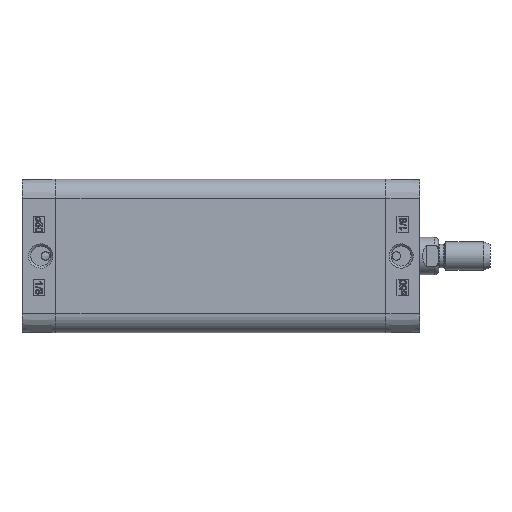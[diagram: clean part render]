
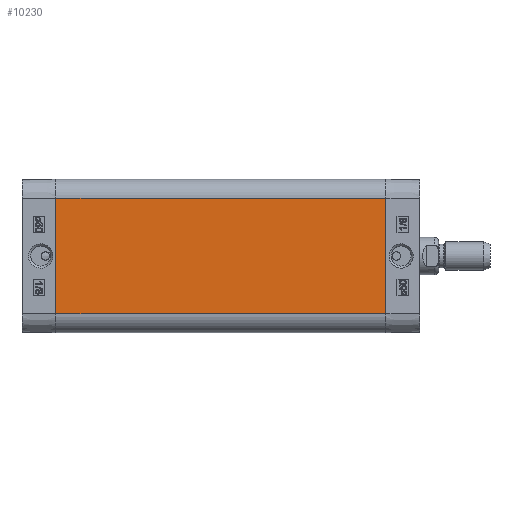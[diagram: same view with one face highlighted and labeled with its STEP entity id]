
A CAD part, left-side view. The second image highlights one B-rep face of the part: STEP entity #10230.
In plain terms, the highlighted planar face has unit normal (-1, 0, 0).
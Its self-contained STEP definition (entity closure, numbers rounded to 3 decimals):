
#5232=CARTESIAN_POINT('',(-32.75,-141.0,24.75));
#5233=VERTEX_POINT('',#5232);
#5240=CARTESIAN_POINT('',(-32.75,-141.0,-24.75));
#5241=VERTEX_POINT('',#5240);
#5242=CARTESIAN_POINT('',(-32.75,-141.0,-24.75));
#5243=DIRECTION('',(0.0,0.0,1.0));
#5244=VECTOR('',#5243,49.5);
#5245=LINE('',#5242,#5244);
#5246=EDGE_CURVE('',#5241,#5233,#5245,.T.);
#10188=CARTESIAN_POINT('',(-32.75,0.0,-24.75));
#10189=VERTEX_POINT('',#10188);
#10190=CARTESIAN_POINT('',(-32.75,0.0,-24.75));
#10191=DIRECTION('',(0.0,-1.0,0.0));
#10192=VECTOR('',#10191,141.0);
#10193=LINE('',#10190,#10192);
#10194=EDGE_CURVE('',#10189,#5241,#10193,.T.);
#10207=CARTESIAN_POINT('',(-32.75,0.0,-24.75));
#10208=DIRECTION('',(-1.0,0.0,0.0));
#10209=DIRECTION('',(0.0,0.0,1.0));
#10210=AXIS2_PLACEMENT_3D('',#10207,#10208,#10209);
#10211=PLANE('',#10210);
#10212=ORIENTED_EDGE('',*,*,#5246,.T.);
#10213=CARTESIAN_POINT('',(-32.75,0.0,24.75));
#10214=VERTEX_POINT('',#10213);
#10215=CARTESIAN_POINT('',(-32.75,0.0,24.75));
#10216=DIRECTION('',(0.0,-1.0,0.0));
#10217=VECTOR('',#10216,141.0);
#10218=LINE('',#10215,#10217);
#10219=EDGE_CURVE('',#10214,#5233,#10218,.T.);
#10220=ORIENTED_EDGE('',*,*,#10219,.F.);
#10221=CARTESIAN_POINT('',(-32.75,0.0,-24.75));
#10222=DIRECTION('',(0.0,0.0,1.0));
#10223=VECTOR('',#10222,49.5);
#10224=LINE('',#10221,#10223);
#10225=EDGE_CURVE('',#10189,#10214,#10224,.T.);
#10226=ORIENTED_EDGE('',*,*,#10225,.F.);
#10227=ORIENTED_EDGE('',*,*,#10194,.T.);
#10228=EDGE_LOOP('',(#10212,#10220,#10226,#10227));
#10229=FACE_OUTER_BOUND('',#10228,.T.);
#10230=ADVANCED_FACE('',(#10229),#10211,.T.);
